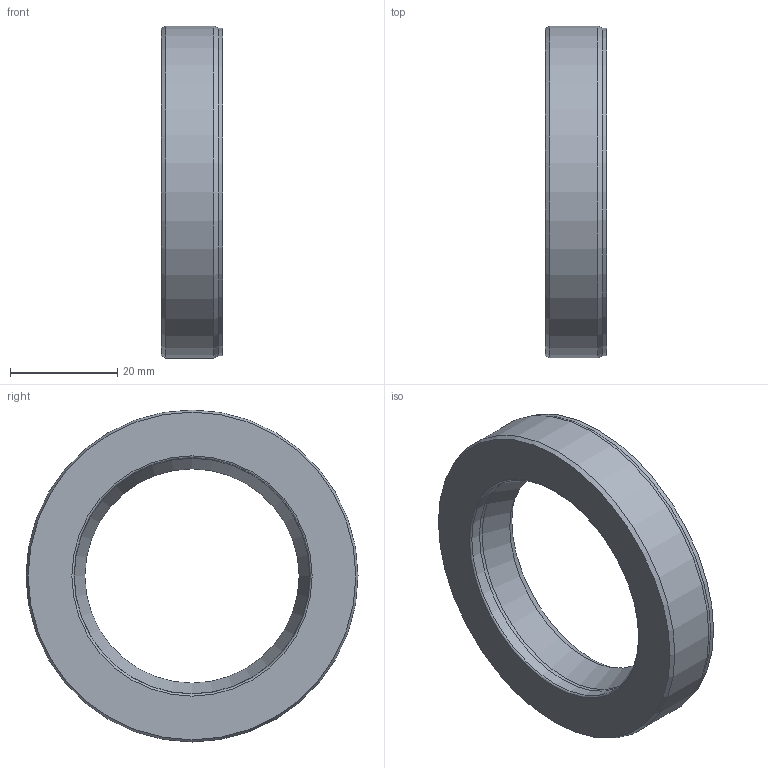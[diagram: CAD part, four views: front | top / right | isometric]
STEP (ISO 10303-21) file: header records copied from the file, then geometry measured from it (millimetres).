
FILE_DESCRIPTION( ( 'STEP AP214' ), '1' );
FILE_NAME( 'p:/temp/worker_28/temp/app_41_0201907181211026690003610e898ce_000000_00_00_000000/format_0/TRAMGA013-4N011 (0).stp', '2019-07-18T10:11:03', ( '' ), ( '' ), ' ', 'PARTsolutions', ' ' );
FILE_SCHEMA( ( 'AUTOMOTIVE_DESIGN { 1 0 10303 214 1 1 1 1 }' ) );
Length unit declared in the file: millimetre
Products named in the file (4): TRAMGA013-4N011 (0); _TRAMGA01310; _TRAMGA0132; _TRAMGA013
Assembly tree (3 placements, depth 2):
  TRAMGA013-4N011 (0)
    _TRAMGA01310
    _TRAMGA0132
    _TRAMGA013
Bounding box: 11.5 x 62 x 62 mm (x, y, z)
Volume: 11301.7 mm3; surface area: 21615.7 mm2
Topology: 3 solids, 4 shells, 39 faces, 68 edges, 39 vertices
Faces by surface type: torus 12, plane 10, cylinder 9, cone 8
Full cylindrical faces by diameter (mm): 44.202 x1, 46.05 x2, 57.292 x2, 60.254 x2, 61.186 x1, 62 x1
Entity records: 1178 total; most frequent: DIRECTION 162, CARTESIAN_POINT 122, AXIS2_PLACEMENT_3D 81, EDGE_LOOP 76, ORIENTED_EDGE 76, FACE_OUTER_BOUND 58, VERTEX_POINT 41, STYLED_ITEM 39
